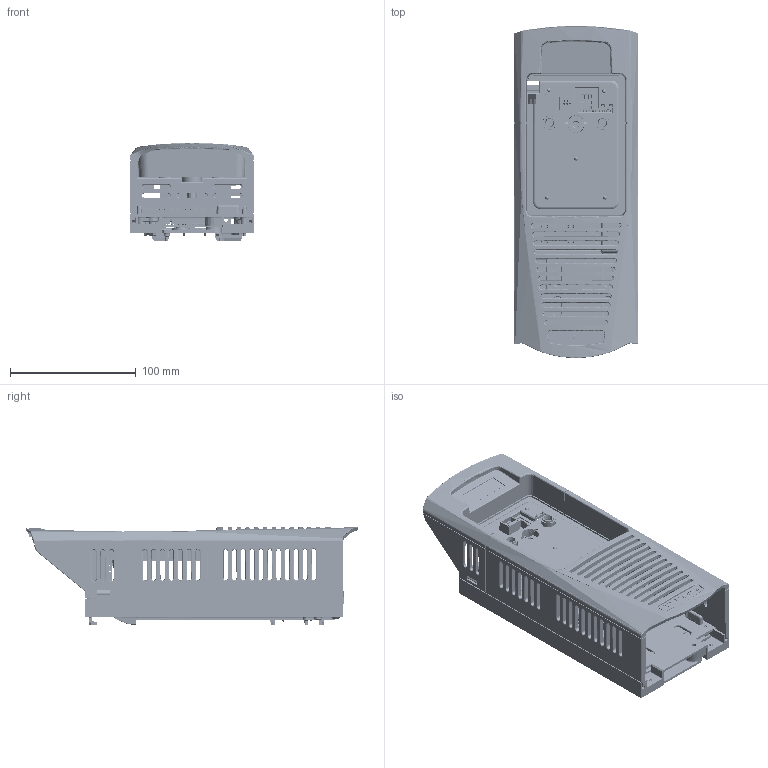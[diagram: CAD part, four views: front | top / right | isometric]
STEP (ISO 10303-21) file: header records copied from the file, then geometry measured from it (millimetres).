
FILE_DESCRIPTION(/* description */ ('hsng_cst_bk'),/* implementation_level */ '2;1');
FILE_NAME(/* name */ 'C:\Users\sc084691\Desktop\AC30 V.stp',/* time_stamp */ '2016-04-27T13:50:29+01:00',/* author */ ('sc084691'),/* organization */ ('PARKER HANNIFIN CORPORATION - SSD DRIVES DIVISION'),/* preprocessor_version */ 'ST-DEVELOPER v15.2',/* originating_system */ 'Autodesk Inventor 2014',/* authorisation */ '');
FILE_SCHEMA (('CONFIG_CONTROL_DESIGN'));
Products named in the file (10): BB501373v26a_hsng_cst_bk; pcb_ctrl_versatile_AH500868_06feb13; BB501372v22_hsng_cst_fr; BD501377U000v25_CVR_FR_UPPER; BD501376U000v18_CVR_FR_LWR_QUALIFICATION; pcb_led_3_skt_AH500888_exp11jun12_1; lbl_adsv_AC30_4410_GA501858_3; lbl_adsv_34l_Parker_blk_GA501912U001_2; pcb_sd_gkp_adpt_ac30_AH500888_08Mar16; hsng_vcm_gkp_otln_std
Bounding box: 99 x 263.57 x 77.88 mm (x, y, z)
Volume: 297290 mm3; surface area: 304744 mm2
Topology: 59 solids, 295 shells, 19782 faces, 56386 edges, 34018 vertices
Faces by surface type: plane 13607, cylinder 3925, bspline 1604, torus 240, cone 207, sphere 199
Full cylindrical faces by diameter (mm): 0.8 x4, 0.889 x6, 1 x24, 1.1 x72, 1.2 x28, 1.32 x1, 1.4 x2, 1.5 x2, 1.524 x2, 1.75 x2, 2.7 x1, 3.2 x2, 3.3 x1, 3.346 x1, 3.4 x2, 3.492 x1, 3.5 x34, 3.7 x8, 3.9 x7, 4 x4, 4.5 x2, 4.8 x1, 5.9 x1
Entity records: 706375 total; most frequent: CARTESIAN_POINT 182247, ORIENTED_EDGE 110572, DIRECTION 101013, EDGE_CURVE 55642, LINE 41973, VECTOR 41973, VERTEX_POINT 33796, AXIS2_PLACEMENT_3D 29520
